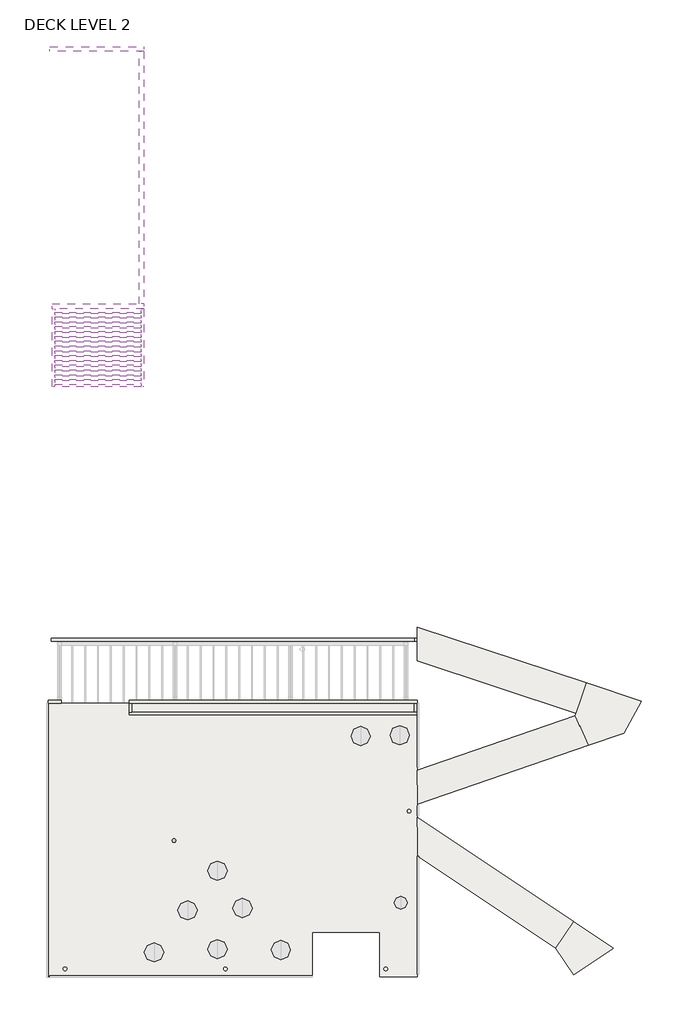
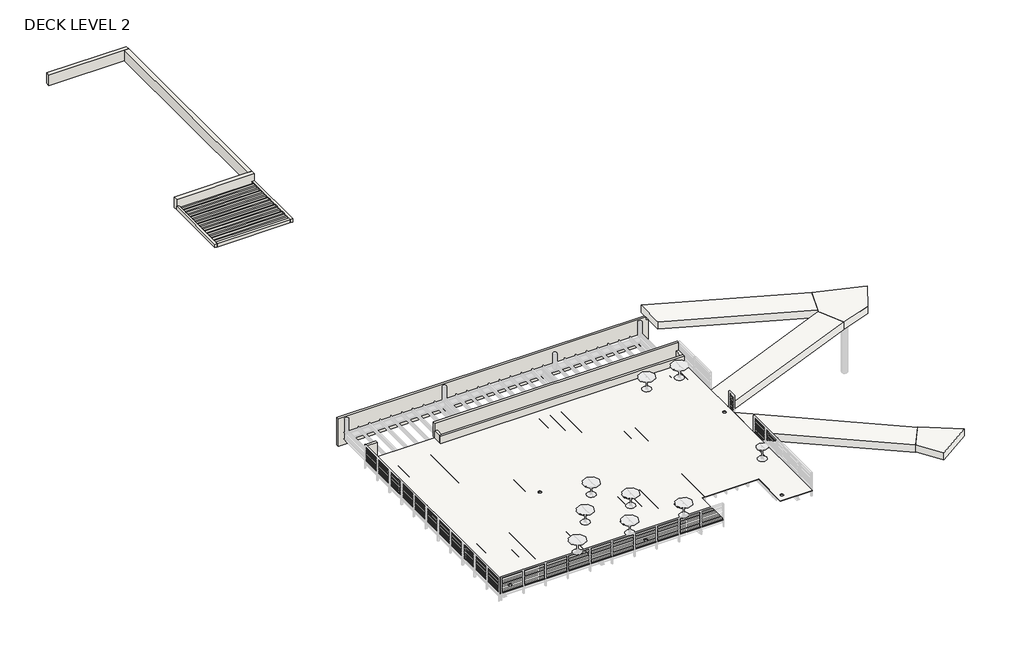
# One storey, part 1 of 2: 26 walls, 6 slabs.
"""IFC4 building model written with IfcOpenShell, lengths in millimetres."""

from ifc_helpers import new_model, si_unit, point, frame, frame_2d, origin, place, context, project, spatial, polyline, circle_curve, trimmed, segment, composite_curve, outline, extrude, faceted_brep, element, save

model = new_model("IFC4")

# Units and contexts
model_context = context("Model", 3, world=origin())
ifc_project = project(units=[si_unit("LENGTHUNIT", "METRE", prefix="MILLI")], contexts=[model_context])

# Site, building, storey
site = spatial("IfcSite", under=ifc_project)
building = spatial("IfcBuilding", under=site)
storey = spatial("IfcBuildingStorey", under=building, Name="DECK LEVEL 2", Elevation=293954.2)

# Slabs
placement = place(None, origin())
element("IfcSlab", 1, ObjectType="FF - 3/4\" Hardwood - Ramps", at=placement, inside=storey, context=model_context, shape_type="SweptSolid", body=[
    extrude(outline(polyline([(48131.6480145, 186229.8637911), (47503.3203805, 187625.1909892), (48020.9398484, 189192.0557486), (50642.4089194, 188326.0439133), (49805.0462558, 186807.7938472), (48131.6480145, 186229.8637911)])), frame((0.0, 0.0, 293973.25), z_axis=(0.0, 0.0, 1.0), x_axis=(1.0, 0.0, 0.0)), (0.0, 0.0, 1.0), 425.45),
])
element("IfcSlab", 2, ObjectType="FF - 3/4\" Hardwood - Ramps", at=placement, inside=storey, context=model_context, shape_type="SweptSolid", body=[
    extrude(outline(polyline([(47429.4614978, 177846.5800191), (49319.4055817, 176587.2975695), (47437.7649021, 175315.641452), (46584.4144636, 176578.3247175), (47429.4614978, 177846.5800191)])), frame((0.0, 0.0, 293084.25), z_axis=(0.0, 0.0, 1.0), x_axis=(1.0, 0.0, 0.0)), (0.0, 0.0, 1.0), 425.45),
])
element("IfcSlab", 3, ObjectType="FF - 3/4\" Hardwood - Ramps", at=placement, inside=storey, context=model_context, shape_type="Brep", body=[
    faceted_brep([(47429.4614978, 177846.5800191, 293070.9583268), (46584.4144636, 176578.3247175, 293070.9583268), (39995.4390585, 180968.6033292, 293488.6720853), (39995.4390585, 182799.9191511, 293542.2445683), (47429.4614978, 177846.5800191, 293497.0), (39995.4390585, 182799.9191511, 293968.2862415), (39995.4390585, 180968.6033292, 293914.7137585), (46584.4144636, 176578.3247175, 293497.0)], [[[0, 1, 2, 3]], [[4, 5, 6, 7]], [[1, 0, 4, 7]], [[2, 1, 7, 6]], [[3, 2, 6, 5]], [[0, 3, 5, 4]]]),
])
element("IfcSlab", 4, ObjectType="FF - 3/4\" Hardwood - Ramps", at=placement, inside=storey, context=model_context, shape_type="Brep", body=[
    faceted_brep([(39995.4390585, 191843.3091031, 294430.770416), (48020.9398484, 189192.0557486, 293972.625435), (47542.89115, 187744.9740502, 293972.625435), (39995.4390585, 190238.3022796, 294403.480454), (39995.4390585, 191843.3091031, 294856.844981), (39995.4390585, 190238.3022796, 294829.555019), (47542.89115, 187744.9740502, 294398.7), (48020.9398484, 189192.0557486, 294398.7)], [[[0, 1, 2, 3]], [[4, 5, 6, 7]], [[1, 0, 4, 7]], [[2, 1, 7, 6]], [[3, 2, 6, 5]], [[0, 3, 5, 4]]]),
])
element("IfcSlab", 5, ObjectType="FF - 3/4\" Hardwood - Ramps", at=placement, inside=storey, context=model_context, shape_type="Brep", body=[
    faceted_brep([(48131.6480145, 186229.8637911, 293976.8656679), (39995.4390585, 183419.9171912, 293512.0234992), (39995.4390585, 185032.2455884, 293540.4468862), (47503.3203805, 187625.1909892, 293969.3911101), (48131.6480145, 186229.8637911, 294402.9355827), (47503.3203805, 187625.1909892, 294395.461025), (39995.4390585, 185032.2455884, 293966.5168011), (39995.4390585, 183419.9171912, 293938.093414)], [[[0, 1, 2, 3]], [[4, 5, 6, 7]], [[2, 1, 7, 6]], [[0, 3, 5, 4]], [[1, 0, 4, 7]], [[3, 2, 6, 5]]]),
])
element("IfcSlab", 6, ObjectType="FF - 5/4\" Hardwood", at=placement, inside=storey, context=model_context, shape_type="SweptSolid", body=[
    extrude(outline(polyline([(39995.4390585, 188223.6056087), (39995.4390585, 175217.9436306), (38211.0890585, 175217.9436306), (38211.0890585, 177351.5436306), (35016.7412551, 177351.5436306), (35016.7412551, 175217.9436306), (22479.7044304, 175217.9436306), (22479.7044304, 188223.6056087), (39995.4390585, 188223.6056087)]), holes=[composite_curve([segment(trimmed(circle_curve(frame_2d((38506.6349399, 175602.9071306)), 85.0), [point((38506.6349399, 175687.9071306))], [point((38506.6349399, 175517.9071306))], True, "CARTESIAN"), True, "CONTINUOUS"), segment(trimmed(circle_curve(frame_2d((38506.6349399, 175602.9071306)), 85.0), [point((38506.6349399, 175517.9071306))], [point((38506.6349399, 175687.9071306))], True, "CARTESIAN"), True, "CONTINUOUS")], self_intersect=False), composite_curve([segment(trimmed(circle_curve(frame_2d((30886.6349399, 175602.9071306)), 85.0), [point((30886.6349399, 175687.9071306))], [point((30886.6349399, 175517.9071306))], True, "CARTESIAN"), True, "CONTINUOUS"), segment(trimmed(circle_curve(frame_2d((30886.6349399, 175602.9071306)), 85.0), [point((30886.6349399, 175517.9071306))], [point((30886.6349399, 175687.9071306))], True, "CARTESIAN"), True, "CONTINUOUS")], self_intersect=False), composite_curve([segment(trimmed(circle_curve(frame_2d((23266.6349399, 175602.9071306)), 85.0), [point((23266.6349399, 175687.9071306))], [point((23266.6349399, 175517.9071306))], True, "CARTESIAN"), True, "CONTINUOUS"), segment(trimmed(circle_curve(frame_2d((23266.6349399, 175602.9071306)), 85.0), [point((23266.6349399, 175517.9071306))], [point((23266.6349399, 175687.9071306))], True, "CARTESIAN"), True, "CONTINUOUS")], self_intersect=False), composite_curve([segment(trimmed(circle_curve(frame_2d((39612.873502, 183095.9071306)), 85.0), [point((39612.873502, 183180.9071306))], [point((39612.873502, 183010.9071306))], True, "CARTESIAN"), True, "CONTINUOUS"), segment(trimmed(circle_curve(frame_2d((39612.873502, 183095.9071306)), 85.0), [point((39612.873502, 183010.9071306))], [point((39612.873502, 183180.9071306))], True, "CARTESIAN"), True, "CONTINUOUS")], self_intersect=False), composite_curve([segment(trimmed(circle_curve(frame_2d((28448.2349399, 181698.9071306)), 85.0), [point((28448.2349399, 181783.9071306))], [point((28448.2349399, 181613.9071306))], True, "CARTESIAN"), True, "CONTINUOUS"), segment(trimmed(circle_curve(frame_2d((28448.2349399, 181698.9071306)), 85.0), [point((28448.2349399, 181613.9071306))], [point((28448.2349399, 181783.9071306))], True, "CARTESIAN"), True, "CONTINUOUS")], self_intersect=False)]), frame((0.0, 0.0, 293922.45), z_axis=(0.0, 0.0, 1.0), x_axis=(1.0, 0.0, 0.0)), (0.0, 0.0, 1.0), 31.75),
])

# Walls
element("IfcWall", 7, ObjectType="(MP-1) Metal Panel Cladding", at=placement, inside=storey, context=model_context, shape_type="Brep", body=[
    faceted_brep([(22613.0544304, 191169.0166306, 294595.55), (22613.0544304, 191169.0166306, 292978.84), (39862.0890585, 191169.0166306, 292978.84), (39995.4390585, 191169.0166306, 292978.84), (39995.4390585, 191169.0166306, 294426.64), (39862.0890585, 191169.0166306, 294426.64), (39862.0890585, 191169.0166306, 294595.55), (22613.0544304, 191302.3666306, 292978.84), (22613.0544304, 191302.3666306, 294424.1), (22613.0544304, 191302.3666306, 294595.55), (39862.0890585, 191302.3666306, 294595.55), (39862.0890585, 191302.3666306, 294426.64), (39995.4390585, 191302.3666306, 294426.64), (39995.4390585, 191302.3666306, 292978.84)], [[[0, 1, 2, 3, 4, 5, 6]], [[7, 8, 9, 10, 11, 12, 13]], [[3, 2, 1, 7, 13]], [[0, 6, 10, 9]], [[0, 9, 8, 7, 1]], [[4, 3, 13, 12]], [[6, 5, 11, 10]], [[11, 5, 4, 12]]]),
])
element("IfcWall", 8, ObjectType="(MP-1) Metal Panel Cladding 2", at=placement, inside=storey, context=model_context, shape_type="SweptSolid", body=[
    extrude(outline(polyline([(22551.5654546, 219421.0658225), (27018.7904546, 219421.0658225), (27018.7904546, 219186.1158225), (22551.5654546, 219186.1158225), (22551.5654546, 219421.0658225)])), frame((0.0, 0.0, 297421.3), z_axis=(0.0, 0.0, 1.0), x_axis=(1.0, 0.0, 0.0)), (0.0, 0.0, 1.0), 609.6),
])
element("IfcWall", 9, ObjectType="(MP-1) Metal Panel Cladding 2", at=placement, inside=storey, context=model_context, shape_type="SweptSolid", body=[
    extrude(outline(polyline([(27018.7904546, 219186.1158225), (27018.7904546, 207200.202435), (26783.8404546, 207200.202435), (26783.8404546, 219186.1158225), (27018.7904546, 219186.1158225)])), frame((0.0, 0.0, 297421.3), z_axis=(0.0, 0.0, 1.0), x_axis=(1.0, 0.0, 0.0)), (0.0, 0.0, 1.0), 609.6),
])
element("IfcWall", 10, ObjectType="(MP-1) Metal Panel Cladding 2", at=placement, inside=storey, context=model_context, shape_type="SweptSolid", body=[
    extrude(outline(polyline([(22653.1654546, 207200.202435), (27018.7904546, 207200.202435), (27018.7904546, 206965.252435), (22653.1654546, 206965.252435), (22653.1654546, 207200.202435)])), frame((0.0, 0.0, 297421.3), z_axis=(0.0, 0.0, 1.0), x_axis=(1.0, 0.0, 0.0)), (0.0, 0.0, 1.0), 609.6),
])
element("IfcWall", 11, ObjectType="(MP-1) Metal Panel Cladding 3", at=placement, inside=storey, context=model_context, shape_type="Brep", body=[
    faceted_brep([(26885.4404546, 206965.252435, 297421.3), (26885.4404546, 206809.0736917, 297421.3), (26885.4404546, 206732.8736917, 297421.3), (26885.4404546, 206580.4736917, 297421.3), (26885.4404546, 206504.2736917, 297421.3), (26885.4404546, 206351.8736917, 297421.3), (26885.4404546, 206275.6736917, 297421.3), (26885.4404546, 206123.2736917, 297421.3), (26885.4404546, 206047.0736917, 297421.3), (26885.4404546, 205894.6736917, 297421.3), (26885.4404546, 205818.4736917, 297421.3), (26885.4404546, 205666.0736917, 297421.3), (26885.4404546, 205589.8736917, 297421.3), (26885.4404546, 205437.4736917, 297421.3), (26885.4404546, 205361.2736917, 297421.3), (26885.4404546, 205208.8736917, 297421.3), (26885.4404546, 205132.6736917, 297421.3), (26885.4404546, 204980.2736917, 297421.3), (26885.4404546, 204904.0736917, 297421.3), (26885.4404546, 204751.6736917, 297421.3), (26885.4404546, 204675.4736917, 297421.3), (26885.4404546, 204523.0736917, 297421.3), (26885.4404546, 204446.8736917, 297421.3), (26885.4404546, 204294.4736917, 297421.3), (26885.4404546, 204218.2736917, 297421.3), (26885.4404546, 204065.8736917, 297421.3), (26885.4404546, 203989.6736917, 297421.3), (26885.4404546, 203837.2736917, 297421.3), (26885.4404546, 203761.0736917, 297421.3), (26885.4404546, 203608.6736917, 297421.3), (26885.4404546, 203532.4736917, 297421.3), (26885.4404546, 203380.0652609, 297421.3), (26885.4404546, 203246.7152609, 297421.3), (26885.4404546, 203246.7152609, 297624.5), (26885.4404546, 203380.0652609, 297624.5), (26885.4404546, 203532.4736917, 297624.5), (26885.4404546, 203608.6736917, 297624.5), (26885.4404546, 203761.0736917, 297624.5), (26885.4404546, 203837.2736917, 297624.5), (26885.4404546, 203989.6736917, 297624.5), (26885.4404546, 204065.8736917, 297624.5), (26885.4404546, 204218.2736917, 297624.5), (26885.4404546, 204294.4736917, 297624.5), (26885.4404546, 204446.8736917, 297624.5), (26885.4404546, 204523.0736917, 297624.5), (26885.4404546, 204675.4736917, 297624.5), (26885.4404546, 204751.6736917, 297624.5), (26885.4404546, 204904.0736917, 297624.5), (26885.4404546, 204980.2736917, 297624.5), (26885.4404546, 205132.6736917, 297624.5), (26885.4404546, 205208.8736917, 297624.5), (26885.4404546, 205361.2736917, 297624.5), (26885.4404546, 205437.4736917, 297624.5), (26885.4404546, 205589.8736917, 297624.5), (26885.4404546, 205666.0736917, 297624.5), (26885.4404546, 205818.4736917, 297624.5), (26885.4404546, 205894.6736917, 297624.5), (26885.4404546, 206047.0736917, 297624.5), (26885.4404546, 206123.2736917, 297624.5), (26885.4404546, 206275.6736917, 297624.5), (26885.4404546, 206351.8736917, 297624.5), (26885.4404546, 206504.2736917, 297624.5), (26885.4404546, 206580.4736917, 297624.5), (26885.4404546, 206732.8736917, 297624.5), (26885.4404546, 206809.0736917, 297624.5), (26885.4404546, 206965.252435, 297624.5), (27018.7904546, 206965.252435, 297421.3), (27018.7904546, 206965.252435, 297624.5), (27018.7904546, 203246.7152609, 297624.5), (27018.7904546, 203246.7152609, 297421.3)], [[[0, 1, 2, 3, 4, 5, 6, 7, 8, 9, 10, 11, 12, 13, 14, 15, 16, 17, 18, 19, 20, 21, 22, 23, 24, 25, 26, 27, 28, 29, 30, 31, 32, 33, 34, 35, 36, 37, 38, 39, 40, 41, 42, 43, 44, 45, 46, 47, 48, 49, 50, 51, 52, 53, 54, 55, 56, 57, 58, 59, 60, 61, 62, 63, 64, 65]], [[66, 67, 68, 69]], [[32, 31, 30, 29, 28, 27, 26, 25, 24, 23, 22, 21, 20, 19, 18, 17, 16, 15, 14, 13, 12, 11, 10, 9, 8, 7, 6, 5, 4, 3, 2, 1, 0, 66, 69]], [[65, 64, 63, 62, 61, 60, 59, 58, 57, 56, 55, 54, 53, 52, 51, 50, 49, 48, 47, 46, 45, 44, 43, 42, 41, 40, 39, 38, 37, 36, 35, 34, 33, 68, 67]], [[0, 65, 67, 66]], [[33, 32, 69, 68]]]),
])
element("IfcWall", 12, ObjectType="(MP-1) Metal Panel Cladding 3", at=placement, inside=storey, context=model_context, shape_type="SweptSolid", body=[
    extrude(outline(polyline([(26885.4404546, 203246.7152609), (22786.5154546, 203246.7152609), (22786.5154546, 203380.0652609), (26885.4404546, 203380.0652609), (26885.4404546, 203246.7152609)])), frame((0.0, 0.0, 297421.3), z_axis=(0.0, 0.0, 1.0), x_axis=(1.0, 0.0, 0.0)), (0.0, 0.0, 1.0), 203.2),
])
element("IfcWall", 13, ObjectType="(MP-1) Metal Panel Cladding 3", at=placement, inside=storey, context=model_context, shape_type="Brep", body=[
    faceted_brep([(22653.1654546, 206965.252435, 297421.3), (22653.1654546, 203246.7152609, 297421.3), (22653.1654546, 203246.7152609, 297624.5), (22653.1654546, 206965.252435, 297624.5), (22786.5154546, 206965.252435, 297421.3), (22786.5154546, 206965.252435, 297624.5), (22786.5154546, 206809.0736917, 297624.5), (22786.5154546, 206732.8736917, 297624.5), (22786.5154546, 206580.4736917, 297624.5), (22786.5154546, 206504.2736917, 297624.5), (22786.5154546, 206351.8736917, 297624.5), (22786.5154546, 206275.6736917, 297624.5), (22786.5154546, 206123.2736917, 297624.5), (22786.5154546, 206047.0736917, 297624.5), (22786.5154546, 205894.6736917, 297624.5), (22786.5154546, 205818.4736917, 297624.5), (22786.5154546, 205666.0736917, 297624.5), (22786.5154546, 205589.8736917, 297624.5), (22786.5154546, 205437.4736917, 297624.5), (22786.5154546, 205361.2736917, 297624.5), (22786.5154546, 205208.8736917, 297624.5), (22786.5154546, 205132.6736917, 297624.5), (22786.5154546, 204980.2736917, 297624.5), (22786.5154546, 204904.0736917, 297624.5), (22786.5154546, 204751.6736917, 297624.5), (22786.5154546, 204675.4736917, 297624.5), (22786.5154546, 204523.0736917, 297624.5), (22786.5154546, 204446.8736917, 297624.5), (22786.5154546, 204294.4736917, 297624.5), (22786.5154546, 204218.2736917, 297624.5), (22786.5154546, 204065.8736917, 297624.5), (22786.5154546, 203989.6736917, 297624.5), (22786.5154546, 203837.2736917, 297624.5), (22786.5154546, 203761.0736917, 297624.5), (22786.5154546, 203608.6736917, 297624.5), (22786.5154546, 203532.4736917, 297624.5), (22786.5154546, 203380.0652609, 297624.5), (22786.5154546, 203246.7152609, 297624.5), (22786.5154546, 203246.7152609, 297421.3), (22786.5154546, 203380.0652609, 297421.3), (22786.5154546, 203532.4736917, 297421.3), (22786.5154546, 203608.6736917, 297421.3), (22786.5154546, 203761.0736917, 297421.3), (22786.5154546, 203837.2736917, 297421.3), (22786.5154546, 203989.6736917, 297421.3), (22786.5154546, 204065.8736917, 297421.3), (22786.5154546, 204218.2736917, 297421.3), (22786.5154546, 204294.4736917, 297421.3), (22786.5154546, 204446.8736917, 297421.3), (22786.5154546, 204523.0736917, 297421.3), (22786.5154546, 204675.4736917, 297421.3), (22786.5154546, 204751.6736917, 297421.3), (22786.5154546, 204904.0736917, 297421.3), (22786.5154546, 204980.2736917, 297421.3), (22786.5154546, 205132.6736917, 297421.3), (22786.5154546, 205208.8736917, 297421.3), (22786.5154546, 205361.2736917, 297421.3), (22786.5154546, 205437.4736917, 297421.3), (22786.5154546, 205589.8736917, 297421.3), (22786.5154546, 205666.0736917, 297421.3), (22786.5154546, 205818.4736917, 297421.3), (22786.5154546, 205894.6736917, 297421.3), (22786.5154546, 206047.0736917, 297421.3), (22786.5154546, 206123.2736917, 297421.3), (22786.5154546, 206275.6736917, 297421.3), (22786.5154546, 206351.8736917, 297421.3), (22786.5154546, 206504.2736917, 297421.3), (22786.5154546, 206580.4736917, 297421.3), (22786.5154546, 206732.8736917, 297421.3), (22786.5154546, 206809.0736917, 297421.3)], [[[0, 1, 2, 3]], [[4, 5, 6, 7, 8, 9, 10, 11, 12, 13, 14, 15, 16, 17, 18, 19, 20, 21, 22, 23, 24, 25, 26, 27, 28, 29, 30, 31, 32, 33, 34, 35, 36, 37, 38, 39, 40, 41, 42, 43, 44, 45, 46, 47, 48, 49, 50, 51, 52, 53, 54, 55, 56, 57, 58, 59, 60, 61, 62, 63, 64, 65, 66, 67, 68, 69]], [[1, 0, 4, 69, 68, 67, 66, 65, 64, 63, 62, 61, 60, 59, 58, 57, 56, 55, 54, 53, 52, 51, 50, 49, 48, 47, 46, 45, 44, 43, 42, 41, 40, 39, 38]], [[3, 2, 37, 36, 35, 34, 33, 32, 31, 30, 29, 28, 27, 26, 25, 24, 23, 22, 21, 20, 19, 18, 17, 16, 15, 14, 13, 12, 11, 10, 9, 8, 7, 6, 5]], [[0, 3, 5, 4]], [[2, 1, 38, 37]]]),
])
element("IfcWall", 14, ObjectType="(MP-1) Metal Panel Cladding 4", at=placement, inside=storey, context=model_context, shape_type="SweptSolid", body=[
    extrude(outline(polyline([(26885.4404546, 205132.6736917), (22786.5154546, 205132.6736917), (22786.5154546, 205208.8736917), (26885.4404546, 205208.8736917), (26885.4404546, 205132.6736917)])), frame((0.0, 0.0, 297421.3), z_axis=(0.0, 0.0, 1.0), x_axis=(1.0, 0.0, 0.0)), (0.0, 0.0, 1.0), 203.2),
])
element("IfcWall", 15, ObjectType="(MP-1) Metal Panel Cladding 4", at=placement, inside=storey, context=model_context, shape_type="SweptSolid", body=[
    extrude(outline(polyline([(26885.4404546, 205361.2736917), (22786.5154546, 205361.2736917), (22786.5154546, 205437.4736917), (26885.4404546, 205437.4736917), (26885.4404546, 205361.2736917)])), frame((0.0, 0.0, 297421.3), z_axis=(0.0, 0.0, 1.0), x_axis=(1.0, 0.0, 0.0)), (0.0, 0.0, 1.0), 203.2),
])
element("IfcWall", 16, ObjectType="(MP-1) Metal Panel Cladding 4", at=placement, inside=storey, context=model_context, shape_type="SweptSolid", body=[
    extrude(outline(polyline([(26885.4404546, 205589.8736917), (22786.5154546, 205589.8736917), (22786.5154546, 205666.0736917), (26885.4404546, 205666.0736917), (26885.4404546, 205589.8736917)])), frame((0.0, 0.0, 297421.3), z_axis=(0.0, 0.0, 1.0), x_axis=(1.0, 0.0, 0.0)), (0.0, 0.0, 1.0), 203.2),
])
element("IfcWall", 17, ObjectType="(MP-1) Metal Panel Cladding 4", at=placement, inside=storey, context=model_context, shape_type="SweptSolid", body=[
    extrude(outline(polyline([(26885.4404546, 205818.4736917), (22786.5154546, 205818.4736917), (22786.5154546, 205894.6736917), (26885.4404546, 205894.6736917), (26885.4404546, 205818.4736917)])), frame((0.0, 0.0, 297421.3), z_axis=(0.0, 0.0, 1.0), x_axis=(1.0, 0.0, 0.0)), (0.0, 0.0, 1.0), 203.2),
])
element("IfcWall", 18, ObjectType="(MP-1) Metal Panel Cladding 4", at=placement, inside=storey, context=model_context, shape_type="SweptSolid", body=[
    extrude(outline(polyline([(26885.4404546, 206047.0736917), (22786.5154546, 206047.0736917), (22786.5154546, 206123.2736917), (26885.4404546, 206123.2736917), (26885.4404546, 206047.0736917)])), frame((0.0, 0.0, 297421.3), z_axis=(0.0, 0.0, 1.0), x_axis=(1.0, 0.0, 0.0)), (0.0, 0.0, 1.0), 203.2),
])
element("IfcWall", 19, ObjectType="(MP-1) Metal Panel Cladding 4", at=placement, inside=storey, context=model_context, shape_type="SweptSolid", body=[
    extrude(outline(polyline([(26885.4404546, 206275.6736917), (22786.5154546, 206275.6736917), (22786.5154546, 206351.8736917), (26885.4404546, 206351.8736917), (26885.4404546, 206275.6736917)])), frame((0.0, 0.0, 297421.3), z_axis=(0.0, 0.0, 1.0), x_axis=(1.0, 0.0, 0.0)), (0.0, 0.0, 1.0), 203.2),
])
element("IfcWall", 20, ObjectType="(MP-1) Metal Panel Cladding 4", at=placement, inside=storey, context=model_context, shape_type="SweptSolid", body=[
    extrude(outline(polyline([(26885.4404546, 206504.2736917), (22786.5154546, 206504.2736917), (22786.5154546, 206580.4736917), (26885.4404546, 206580.4736917), (26885.4404546, 206504.2736917)])), frame((0.0, 0.0, 297421.3), z_axis=(0.0, 0.0, 1.0), x_axis=(1.0, 0.0, 0.0)), (0.0, 0.0, 1.0), 203.2),
])
element("IfcWall", 21, ObjectType="(MP-1) Metal Panel Cladding 4", at=placement, inside=storey, context=model_context, shape_type="SweptSolid", body=[
    extrude(outline(polyline([(26885.4404546, 206732.8736917), (22786.5154546, 206732.8736917), (22786.5154546, 206809.0736917), (26885.4404546, 206809.0736917), (26885.4404546, 206732.8736917)])), frame((0.0, 0.0, 297421.3), z_axis=(0.0, 0.0, 1.0), x_axis=(1.0, 0.0, 0.0)), (0.0, 0.0, 1.0), 203.2),
])
element("IfcWall", 22, ObjectType="(MP-1) Metal Panel Cladding 4", at=placement, inside=storey, context=model_context, shape_type="SweptSolid", body=[
    extrude(outline(polyline([(26885.4404546, 204904.0736917), (22786.5154546, 204904.0736917), (22786.5154546, 204980.2736917), (26885.4404546, 204980.2736917), (26885.4404546, 204904.0736917)])), frame((0.0, 0.0, 297421.3), z_axis=(0.0, 0.0, 1.0), x_axis=(1.0, 0.0, 0.0)), (0.0, 0.0, 1.0), 203.2),
])
element("IfcWall", 23, ObjectType="(MP-1) Metal Panel Cladding 4", at=placement, inside=storey, context=model_context, shape_type="SweptSolid", body=[
    extrude(outline(polyline([(26885.4404546, 204675.4736917), (22786.5154546, 204675.4736917), (22786.5154546, 204751.6736917), (26885.4404546, 204751.6736917), (26885.4404546, 204675.4736917)])), frame((0.0, 0.0, 297421.3), z_axis=(0.0, 0.0, 1.0), x_axis=(1.0, 0.0, 0.0)), (0.0, 0.0, 1.0), 203.2),
])
element("IfcWall", 24, ObjectType="(MP-1) Metal Panel Cladding 4", at=placement, inside=storey, context=model_context, shape_type="SweptSolid", body=[
    extrude(outline(polyline([(26885.4404546, 204446.8736917), (22786.5154546, 204446.8736917), (22786.5154546, 204523.0736917), (26885.4404546, 204523.0736917), (26885.4404546, 204446.8736917)])), frame((0.0, 0.0, 297421.3), z_axis=(0.0, 0.0, 1.0), x_axis=(1.0, 0.0, 0.0)), (0.0, 0.0, 1.0), 203.2),
])
element("IfcWall", 25, ObjectType="(MP-1) Metal Panel Cladding 4", at=placement, inside=storey, context=model_context, shape_type="SweptSolid", body=[
    extrude(outline(polyline([(26885.4404546, 204218.2736917), (22786.5154546, 204218.2736917), (22786.5154546, 204294.4736917), (26885.4404546, 204294.4736917), (26885.4404546, 204218.2736917)])), frame((0.0, 0.0, 297421.3), z_axis=(0.0, 0.0, 1.0), x_axis=(1.0, 0.0, 0.0)), (0.0, 0.0, 1.0), 203.2),
])
element("IfcWall", 26, ObjectType="(MP-1) Metal Panel Cladding 4", at=placement, inside=storey, context=model_context, shape_type="SweptSolid", body=[
    extrude(outline(polyline([(26885.4404546, 203989.6736917), (22786.5154546, 203989.6736917), (22786.5154546, 204065.8736917), (26885.4404546, 204065.8736917), (26885.4404546, 203989.6736917)])), frame((0.0, 0.0, 297421.3), z_axis=(0.0, 0.0, 1.0), x_axis=(1.0, 0.0, 0.0)), (0.0, 0.0, 1.0), 203.2),
])
element("IfcWall", 27, ObjectType="(MP-1) Metal Panel Cladding 4", at=placement, inside=storey, context=model_context, shape_type="SweptSolid", body=[
    extrude(outline(polyline([(26885.4404546, 203761.0736917), (22786.5154546, 203761.0736917), (22786.5154546, 203837.2736917), (26885.4404546, 203837.2736917), (26885.4404546, 203761.0736917)])), frame((0.0, 0.0, 297421.3), z_axis=(0.0, 0.0, 1.0), x_axis=(1.0, 0.0, 0.0)), (0.0, 0.0, 1.0), 203.2),
])
element("IfcWall", 28, ObjectType="(MP-1) Metal Panel Cladding 4", at=placement, inside=storey, context=model_context, shape_type="SweptSolid", body=[
    extrude(outline(polyline([(26885.4404546, 203532.4736917), (22786.5154546, 203532.4736917), (22786.5154546, 203608.6736917), (26885.4404546, 203608.6736917), (26885.4404546, 203532.4736917)])), frame((0.0, 0.0, 297421.3), z_axis=(0.0, 0.0, 1.0), x_axis=(1.0, 0.0, 0.0)), (0.0, 0.0, 1.0), 203.2),
])
element("IfcWall", 29, ObjectType="(WC-1) Wood Wall Cladding", at=placement, inside=storey, context=model_context, shape_type="Brep", body=[
    faceted_brep([(22479.7044304, 188223.6056087, 293954.2), (23089.3044304, 188223.6056087, 293954.2), (23089.3044304, 188223.6056087, 294830.5), (22479.7044304, 188223.6056087, 294830.5), (22479.7044304, 188356.9556087, 293954.2), (22479.7044304, 188356.9556087, 294830.5), (22613.0544304, 188356.9556087, 294830.5), (23089.3044304, 188356.9556087, 294830.5), (23089.3044304, 188356.9556087, 293954.2)], [[[0, 1, 2, 3]], [[4, 5, 6, 7, 8]], [[0, 3, 5, 4]], [[1, 0, 4, 8]], [[2, 1, 8, 7]], [[3, 2, 7, 6, 5]]]),
    faceted_brep([(39995.4390585, 188223.6056087, 294830.5), (26315.1044304, 188223.6056087, 294830.5), (26315.1044304, 188223.6056087, 293954.2), (39995.4390585, 188223.6056087, 293954.2), (39995.4390585, 188356.9556087, 294830.5), (39995.4390585, 188356.9556087, 293954.2), (26315.1044304, 188356.9556087, 293954.2), (26315.1044304, 188356.9556087, 294830.5), (39862.0890585, 188356.9556087, 294830.5)], [[[0, 1, 2, 3]], [[4, 5, 6, 7, 8]], [[0, 3, 5, 4]], [[1, 0, 4, 8, 7]], [[2, 1, 7, 6]], [[3, 2, 6, 5]]]),
])
element("IfcWall", 30, ObjectType="(WC-1) Wood Wall Cladding", at=placement, inside=storey, context=model_context, shape_type="Brep", body=[
    faceted_brep([(39995.4390585, 187664.8056087, 294376.475), (26315.1044304, 187664.8056087, 294376.475), (26315.1044304, 187664.8056087, 293954.2), (39995.4390585, 187664.8056087, 293954.2), (39995.4390585, 187798.1556087, 294376.475), (39995.4390585, 187798.1556087, 293954.2), (39862.0890585, 187798.1556087, 293954.2), (26448.4544304, 187798.1556087, 293954.2), (26315.1044304, 187798.1556087, 293954.2), (26315.1044304, 187798.1556087, 294376.475), (26448.4544304, 187798.1556087, 294376.475), (39862.0890585, 187798.1556087, 294376.475)], [[[0, 1, 2, 3]], [[4, 5, 6, 7, 8, 9, 10, 11]], [[1, 0, 4, 11, 10, 9]], [[2, 1, 9, 8]], [[3, 2, 8, 7, 6, 5]], [[0, 3, 5, 4]]]),
])
element("IfcWall", 31, ObjectType="(WC-1) Wood Wall Cladding", at=placement, inside=storey, context=model_context, shape_type="SweptSolid", body=[
    extrude(outline(polyline([(26448.4544304, 188223.6056087), (26448.4544304, 187798.1556087), (26315.1044304, 187798.1556087), (26315.1044304, 188223.6056087), (26448.4544304, 188223.6056087)])), frame((0.0, 0.0, 293954.2), z_axis=(0.0, 0.0, 1.0), x_axis=(1.0, 0.0, 0.0)), (0.0, 0.0, 1.0), 422.275),
])
element("IfcWall", 32, ObjectType="(WC-1) Wood Wall Cladding", at=placement, inside=storey, context=model_context, shape_type="SweptSolid", body=[
    extrude(outline(polyline([(39995.4390585, 188223.6056087), (39995.4390585, 187798.1556087), (39862.0890585, 187798.1556087), (39862.0890585, 188223.6056087), (39995.4390585, 188223.6056087)])), frame((0.0, 0.0, 293954.2), z_axis=(0.0, 0.0, 1.0), x_axis=(1.0, 0.0, 0.0)), (0.0, 0.0, 1.0), 422.275),
])

save(model, "model.ifc")
